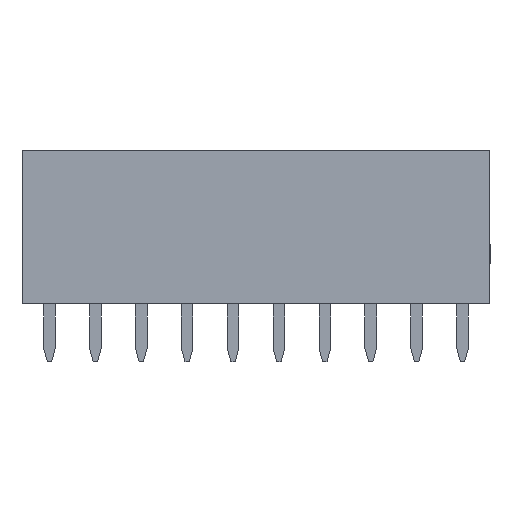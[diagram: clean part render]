
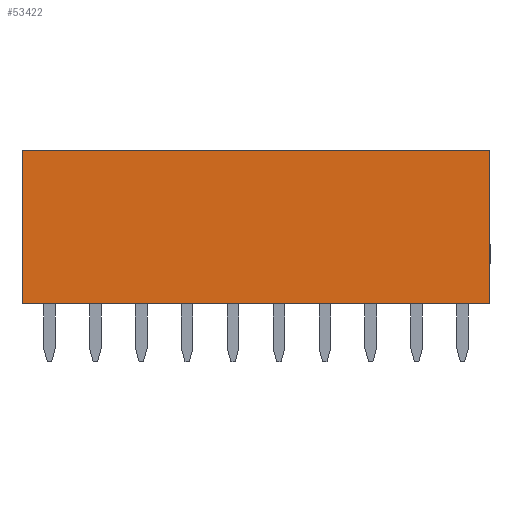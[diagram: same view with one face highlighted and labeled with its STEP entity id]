
A CAD part, front view. The second image highlights one B-rep face of the part: STEP entity #53422.
In plain terms, the highlighted planar face has unit normal (0, -1, 0).
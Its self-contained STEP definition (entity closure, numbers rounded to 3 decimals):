
#88 = DIRECTION ( 'NONE',  ( -1., 0., 0. ) ) ;
#1676 = VERTEX_POINT ( 'NONE', #50574 ) ;
#3602 = DIRECTION ( 'NONE',  ( 0., 0., -1. ) ) ;
#5894 = DIRECTION ( 'NONE',  ( 0., 0., 1. ) ) ;
#7329 = ORIENTED_EDGE ( 'NONE', *, *, #27922, .F. ) ;
#7958 = CARTESIAN_POINT ( 'NONE',  ( -12.95, -2.5, 4.25 ) ) ;
#8126 = DIRECTION ( 'NONE',  ( -1., 0., 0. ) ) ;
#9007 = LINE ( 'NONE', #26038, #39911 ) ;
#11730 = PLANE ( 'NONE',  #48701 ) ;
#19112 = LINE ( 'NONE', #36920, #45461 ) ;
#19908 = CARTESIAN_POINT ( 'NONE',  ( -12.95, -2.5, 4.25 ) ) ;
#21189 = CARTESIAN_POINT ( 'NONE',  ( 12.95, -2.5, 4.25 ) ) ;
#21953 = VERTEX_POINT ( 'NONE', #34167 ) ;
#22310 = EDGE_CURVE ( 'NONE', #30903, #51349, #48079, .T. ) ;
#24150 = EDGE_LOOP ( 'NONE', ( #25815, #40328, #7329, #48179 ) ) ;
#25731 = CARTESIAN_POINT ( 'NONE',  ( 12.95, -2.5, 4.25 ) ) ;
#25815 = ORIENTED_EDGE ( 'NONE', *, *, #44438, .F. ) ;
#26038 = CARTESIAN_POINT ( 'NONE',  ( -12.95, -2.5, -4.25 ) ) ;
#27922 = EDGE_CURVE ( 'NONE', #21953, #30903, #19112, .T. ) ;
#30903 = VERTEX_POINT ( 'NONE', #19908 ) ;
#34167 = CARTESIAN_POINT ( 'NONE',  ( -12.95, -2.5, -4.25 ) ) ;
#34713 = VECTOR ( 'NONE', #39293, 1000. ) ;
#35704 = CARTESIAN_POINT ( 'NONE',  ( 0., -2.5, 0. ) ) ;
#35723 = VECTOR ( 'NONE', #3602, 1000. ) ;
#36920 = CARTESIAN_POINT ( 'NONE',  ( -12.95, -2.5, 4.25 ) ) ;
#39293 = DIRECTION ( 'NONE',  ( 1., 0., 0. ) ) ;
#39553 = LINE ( 'NONE', #21189, #35723 ) ;
#39911 = VECTOR ( 'NONE', #8126, 1000. ) ;
#40091 = DIRECTION ( 'NONE',  ( 0., -1., 0. ) ) ;
#40328 = ORIENTED_EDGE ( 'NONE', *, *, #22310, .F. ) ;
#44438 = EDGE_CURVE ( 'NONE', #51349, #1676, #39553, .T. ) ;
#45461 = VECTOR ( 'NONE', #5894, 1000. ) ;
#48079 = LINE ( 'NONE', #7958, #34713 ) ;
#48179 = ORIENTED_EDGE ( 'NONE', *, *, #51424, .F. ) ;
#48701 = AXIS2_PLACEMENT_3D ( 'NONE', #35704, #40091, #88 ) ;
#50574 = CARTESIAN_POINT ( 'NONE',  ( 12.95, -2.5, -4.25 ) ) ;
#51349 = VERTEX_POINT ( 'NONE', #25731 ) ;
#51424 = EDGE_CURVE ( 'NONE', #1676, #21953, #9007, .T. ) ;
#51792 = FACE_OUTER_BOUND ( 'NONE', #24150, .T. ) ;
#53422 = ADVANCED_FACE ( 'NONE', ( #51792 ), #11730, .T. ) ;
